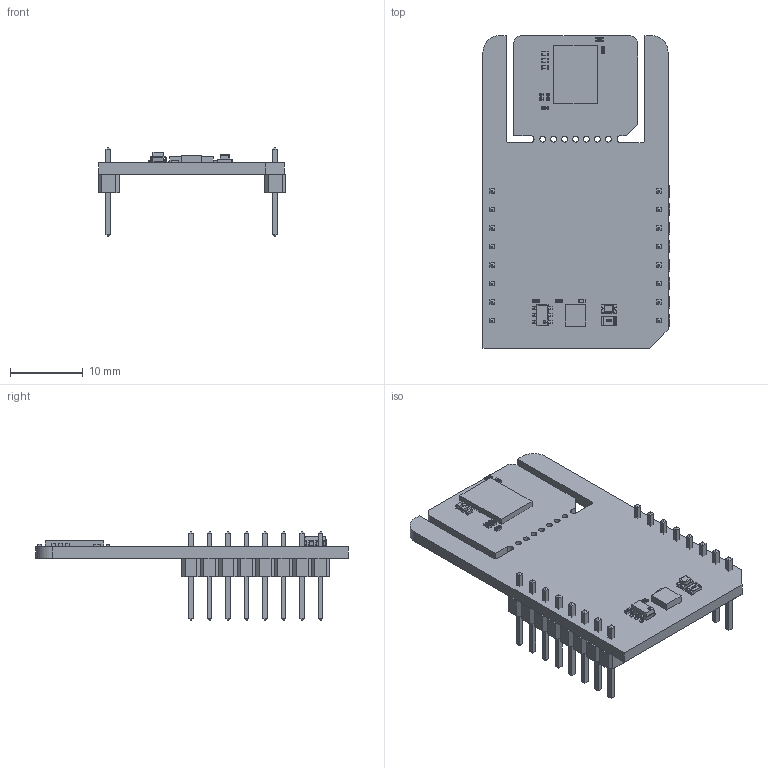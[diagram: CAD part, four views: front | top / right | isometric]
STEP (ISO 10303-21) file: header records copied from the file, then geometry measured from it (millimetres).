
FILE_DESCRIPTION(('Open CASCADE Model'),'2;1');
FILE_NAME('Open CASCADE Shape Model','2026-04-06T14:11:44',('Author'),( 'Open CASCADE'),'Open CASCADE STEP processor 6.8','Open CASCADE 6.8' ,'Unknown');
FILE_SCHEMA(('AUTOMOTIVE_DESIGN { 1 0 10303 214 1 1 1 1 }'));
Length unit declared in the file: millimetre
Products named in the file (34): PCB; Board; R3; User_Library-R_0402; U2; User_Library-SOT23-6-2; MBD1; Header_1x8; Free-Models; 1240637040; User_Library-PinHeaderX5-1_PinHeaderX5_Body_1; User_Library-PinHeaderX5-1_PinHeaderX5_Pins_1; U1; 1098813080; Extruded; R4; R1; User_Library-R_0805; LD1; led_0805_green; C1; User_Library-SMD_CAPACITOR0402; C2; C3; C4; R5; R6; R7; R8; U3; 1098813216; R2
Assembly tree (44 placements, depth 7):
  PCB
    Board
    R3
      User_Library-R_0402
    U2
      User_Library-SOT23-6-2
    MBD1
      Header_1x8  x2
        PCB
          Free-Models
            1240637040  x2
              User_Library-PinHeaderX5-1_PinHeaderX5_Body_1
              User_Library-PinHeaderX5-1_PinHeaderX5_Pins_1
    U1
      1098813080
        Extruded
    R4
      User_Library-R_0402
    R1
      User_Library-R_0805
    LD1
      led_0805_green
    C1
      User_Library-SMD_CAPACITOR0402
    C2
      User_Library-SMD_CAPACITOR0402
    C3
      User_Library-SMD_CAPACITOR0402
    C4
      User_Library-SMD_CAPACITOR0402
    R5
      User_Library-R_0402
    R6
      User_Library-R_0402
    R7
      User_Library-R_0402
    R8
      User_Library-R_0402
    U3
      1098813216
        Extruded
    R2
      User_Library-R_0402
Bounding box: 25.78 x 42.93 x 12.19 mm (x, y, z)
Volume: 2187.8 mm3; surface area: 3980.6 mm2
Topology: 49 solids, 49 shells, 1540 faces, 3858 edges, 2448 vertices
Faces by surface type: plane 1164, bspline 224, cylinder 114, sphere 38
Full cylindrical faces by diameter (mm): 0.8 x7
Entity records: 23262 total; most frequent: CARTESIAN_POINT 7193, ORIENTED_EDGE 2700, DIRECTION 2383, EDGE_CURVE 1350, LINE 1075, VECTOR 1075, VERTEX_POINT 864, AXIS2_PLACEMENT_3D 654
